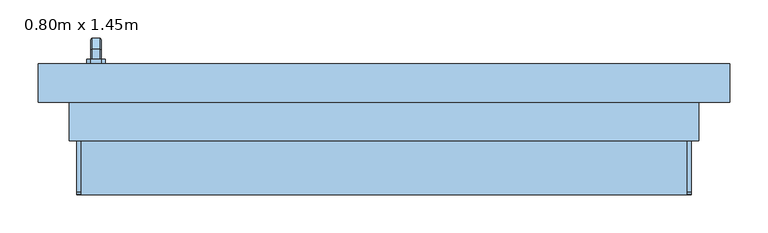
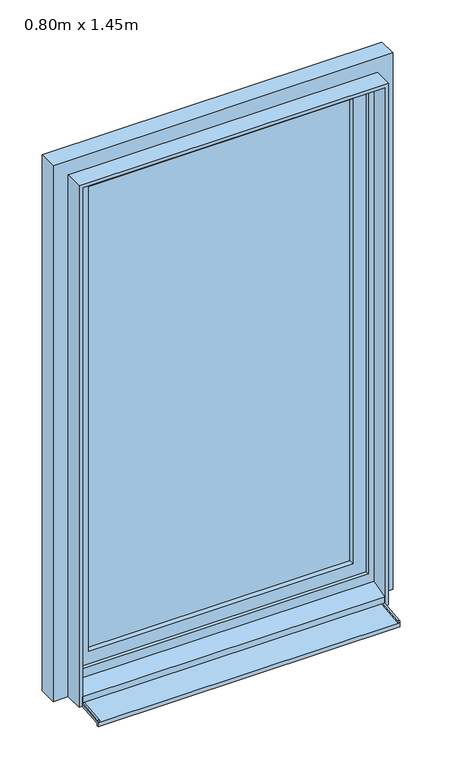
"""IFC4 building model written with IfcOpenShell, lengths in millimetres: window geometry, PF 1 Vantail - Droite : 0.80m x 1.45m."""

from ifc_helpers import new_model, si_unit, point, frame, frame_2d, origin, place, context, project, spatial, polyline, circle_curve, trimmed, segment, composite_curve, outline, extrude, faceted_brep, source, transform, mapped, element, save


def window_0_80m_x_1_45m_510e4769(model_context):
    return source(origin(), model_context, "Body", "SolidModel", [
        faceted_brep([(-369.3539903, 86.0, 1122.0339292), (-380.6460097, 86.0, 1122.0339292), (-382.0339292, 86.0, 1120.6460097), (-382.0339292, 86.0, 1109.3323012), (-380.6676988, 86.0, 1107.9660708), (-369.3323012, 86.0, 1107.9660708), (-367.9660708, 86.0, 1109.3323012), (-367.9660708, 86.0, 1120.6460097), (-367.9660708, 98.3386538, 1120.6460097), (-369.3539903, 98.9135489, 1122.0339292), (-367.9660708, 93.6523623, 1109.3323012), (-367.9660708, 100.3323012, 1102.6523623), (-367.9660708, 100.3323012, 1020.0), (-367.9660708, 111.6460097, 1020.0), (-367.9660708, 111.6460097, 1107.3386538), (-369.3323012, 93.0864511, 1107.9660708), (-380.6676988, 93.0864511, 1107.9660708), (-382.0339292, 93.6523623, 1109.3323012), (-382.0339292, 98.3386538, 1120.6460097), (-382.0339292, 111.6460097, 1107.3386538), (-382.0339292, 111.6460097, 1020.0), (-382.0339292, 100.3323012, 1020.0), (-382.0339292, 100.3323012, 1102.6523623), (-380.6460097, 98.9135489, 1122.0339292), (-369.3539903, 113.0339292, 1107.9135489), (-369.3323012, 98.9660708, 1102.0864511), (-380.6676988, 98.9660708, 1102.0864511), (-380.6460097, 113.0339292, 1107.9135489), (-369.3539903, 113.0339292, 1020.0), (-369.3323012, 98.9660708, 1020.0), (-380.6676988, 98.9660708, 1020.0), (-380.6460097, 113.0339292, 1020.0)], [[[0, 1, 2, 3, 4, 5, 6, 7]], [[7, 8, 9, 0]], [[6, 10, 11, 12, 13, 14, 8, 7]], [[5, 15, 10, 6]], [[4, 16, 15, 5]], [[3, 17, 16, 4]], [[2, 18, 19, 20, 21, 22, 17, 3]], [[1, 23, 18, 2]], [[0, 9, 23, 1]], [[8, 14, 24, 9]], [[15, 25, 11, 10]], [[16, 26, 25, 15]], [[17, 22, 26, 16]], [[23, 27, 19, 18]], [[9, 24, 27, 23]], [[28, 13, 12, 29, 30, 21, 20, 31]], [[14, 13, 28, 24]], [[25, 29, 12, 11]], [[26, 30, 29, 25]], [[22, 21, 30, 26]], [[27, 31, 20, 19]], [[24, 28, 31, 27]]]),
        extrude(outline(polyline([(1140.0, -368.0), (1140.0, -382.0), (1135.0, -387.0), (1065.0, -387.0), (1060.0, -382.0), (1060.0, -368.0), (1065.0, -363.0), (1135.0, -363.0), (1140.0, -368.0)])), frame((0.0, 80.0, 0.0), z_axis=(0.0, 1.0, 0.0), x_axis=(0.0, 0.0, 1.0)), (0.0, 0.0, 1.0), 6.0),
        extrude(outline(polyline([(-90.0288776, 30.7927954), (-5.0, 39.7296906), (-5.0, 50.0), (0.0, 50.0), (0.0, 35.0), (-85.0288776, 26.0631048), (-85.0288776, 20.2401141), (-90.0288776, 19.7145929), (-90.0288776, 30.7927954)])), frame((-400.0, 0.0, 0.0), z_axis=(1.0, 0.0, 0.0), x_axis=(0.0, 1.0, 0.0)), (0.0, 0.0, 1.0), 800.0),
        extrude(outline(composite_curve([segment(polyline([(-90.0288776, 30.7927954), (-90.0288776, 32.2187207)]), True, "CONTINUOUS"), segment(trimmed(circle_curve(frame_2d((-86.0288776, 32.2187207)), 4.0), [point((-90.0288776, 32.2187207))], [point((-86.4469915, 36.1968082))], False, "CARTESIAN"), True, "CONTINUOUS"), segment(polyline([(-86.4469915, 36.1968082), (-5.0, 44.757232), (-5.0, 39.7296906), (-90.0288776, 30.7927954)]), True, "CONTINUOUS")], self_intersect=False)), frame((-400.0, 0.0, 0.0), z_axis=(1.0, 0.0, 0.0), x_axis=(0.0, 1.0, 0.0)), (0.0, 0.0, 1.0), 5.0),
        extrude(outline(composite_curve([segment(polyline([(-90.0288776, 30.7927954), (-90.0288776, 32.2187207)]), True, "CONTINUOUS"), segment(trimmed(circle_curve(frame_2d((-86.0288776, 32.2187207)), 4.0), [point((-90.0288776, 32.2187207))], [point((-86.4469915, 36.1968082))], False, "CARTESIAN"), True, "CONTINUOUS"), segment(polyline([(-86.4469915, 36.1968082), (-5.0, 44.757232), (-5.0, 39.7296906), (-90.0288776, 30.7927954)]), True, "CONTINUOUS")], self_intersect=False)), frame((395.0, 0.0, 0.0), z_axis=(1.0, 0.0, 0.0), x_axis=(0.0, 1.0, 0.0)), (0.0, 0.0, 1.0), 5.0),
        extrude(outline(polyline([(-350.0, 54.0), (-350.0, 66.0), (350.0, 66.0), (350.0, 54.0), (-350.0, 54.0)])), frame((0.0, 0.0, 135.0), z_axis=(0.0, 0.0, 1.0), x_axis=(1.0, 0.0, 0.0)), (0.0, 0.0, 1.0), 1300.0),
        extrude(outline(polyline([(85.0, -400.0), (85.0, 400.0), (1485.0, 400.0), (1485.0, -400.0), (85.0, -400.0)]), holes=[polyline([(135.0, 350.0), (135.0, -350.0), (1435.0, -350.0), (1435.0, 350.0), (135.0, 350.0)])]), frame((0.0, 40.0, 0.0), z_axis=(0.0, 1.0, 0.0), x_axis=(0.0, 0.0, 1.0)), (0.0, 0.0, 1.0), 40.0),
        faceted_brep([(-450.0, 80.0, 35.0), (450.0, 80.0, 35.0), (450.0, 30.0, 35.0), (400.0, 30.0, 35.0), (400.0, 0.0, 35.0), (-400.0, 0.0, 35.0), (-400.0, 30.0, 35.0), (-450.0, 30.0, 35.0), (-400.0, 30.0, 74.3761425), (400.0, 30.0, 74.3761425), (450.0, 30.0, 1535.0), (-450.0, 30.0, 1535.0), (-385.0, 30.0, 1470.0), (385.0, 30.0, 1470.0), (385.0, 30.0, 100.0), (-385.0, 30.0, 100.0), (-385.0, 40.0, 100.0), (-385.0, 40.0, 1470.0), (400.0, 40.0, 1485.0), (400.0, 40.0, 85.0), (-400.0, 40.0, 85.0), (-400.0, 40.0, 1485.0), (385.0, 40.0, 100.0), (385.0, 40.0, 1470.0), (-400.0, 80.0, 85.0), (-400.0, 80.0, 1485.0), (-450.0, 80.0, 1535.0), (450.0, 80.0, 1535.0), (400.0, 80.0, 1485.0), (400.0, 80.0, 85.0), (-400.0, 0.0, 50.0), (-400.0, -10.0, 50.0), (-400.0, -10.0, 45.0), (-400.0, -20.0, 45.0), (-400.0, -20.0, 60.9786829), (400.0, -20.0, 60.9786829), (400.0, -20.0, 45.0), (400.0, -10.0, 45.0), (400.0, -10.0, 50.0), (400.0, 0.0, 50.0)], [[[0, 1, 2, 3, 4, 5, 6, 7]], [[7, 6, 8, 9, 3, 2, 10, 11], [12, 13, 14, 15]], [[12, 15, 16, 17]], [[18, 19, 20, 21], [17, 16, 22, 23]], [[20, 24, 25, 21]], [[0, 26, 27, 1], [28, 25, 24, 29]], [[7, 11, 26, 0]], [[12, 17, 23, 13]], [[21, 25, 28, 18]], [[10, 27, 26, 11]], [[23, 22, 14, 13]], [[28, 29, 19, 18]], [[2, 1, 27, 10]], [[8, 6, 5, 30, 31, 32, 33, 34]], [[4, 3, 9, 35, 36, 37, 38, 39]], [[24, 20, 19, 29]], [[16, 15, 14, 22]], [[34, 35, 9, 8]], [[33, 36, 35, 34]], [[32, 37, 36, 33]], [[31, 38, 37, 32]], [[30, 39, 38, 31]], [[5, 4, 39, 30]]]),
        extrude(outline(polyline([(35.0, -400.0), (1485.0, -400.0), (1485.0, 400.0), (35.0, 400.0), (35.0, 410.0), (1495.0, 410.0), (1495.0, -410.0), (35.0, -410.0), (35.0, -400.0)])), frame((0.0, -20.0, 0.0), z_axis=(0.0, 1.0, 0.0), x_axis=(0.0, 0.0, 1.0)), (0.0, 0.0, 1.0), 50.0),
    ])


if __name__ == "__main__":
    model = new_model("IFC4")
    model_context = context("Model", 3, world=origin())
    ifc_project = project(units=[si_unit("LENGTHUNIT", "METRE", prefix="MILLI")], contexts=[model_context])
    site = spatial("IfcSite", under=ifc_project)
    building = spatial("IfcBuilding", under=site)
    placement = place(None, origin())
    window_0_80m_x_1_45m_shape = window_0_80m_x_1_45m_510e4769(model_context)
    element("IfcWindow", 1, ObjectType="PF 1 Vantail - Droite : 0.80m x 1.45m", at=placement, inside=building, context=model_context, shape_type="MappedRepresentation", body=[
        mapped(window_0_80m_x_1_45m_shape, transform((0.0, 0.0, 0.0), x_axis=(1.0, 0.0, 0.0), y_axis=(0.0, 1.0, 0.0), z_axis=(0.0, 0.0, 1.0))),
    ])
    save(model, "model.ifc")
